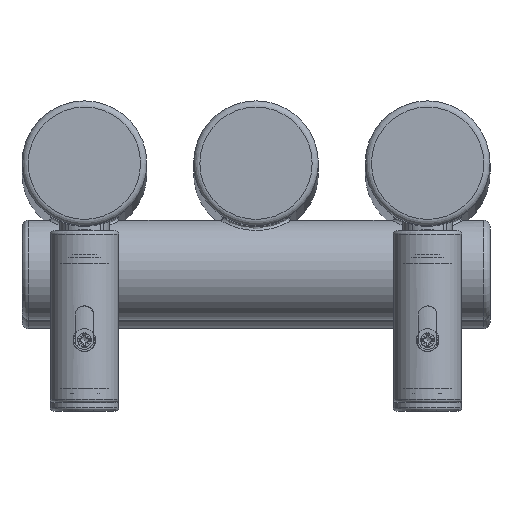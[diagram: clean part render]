
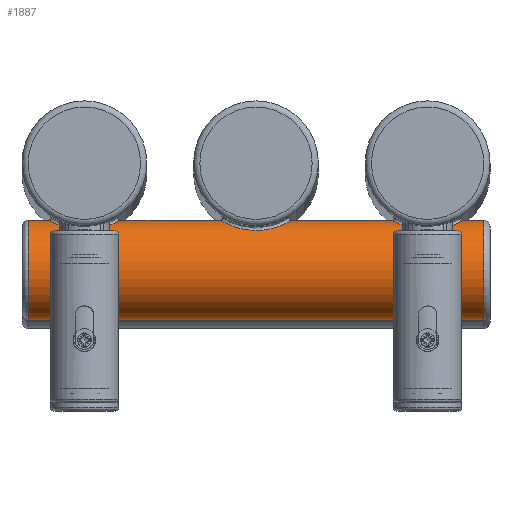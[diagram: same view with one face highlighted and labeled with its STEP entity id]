
A CAD part, top view. The second image highlights one B-rep face of the part: STEP entity #1887.
In plain terms, the highlighted cylindrical face has radius 16 mm (diameter 32 mm), a full revolution.
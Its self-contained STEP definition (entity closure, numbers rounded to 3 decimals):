
#163=FACE_BOUND('',#495,.T.);
#164=FACE_BOUND('',#496,.T.);
#165=FACE_BOUND('',#497,.T.);
#184=LINE('',#3926,#256);
#256=VECTOR('',#2366,16.);
#328=CYLINDRICAL_SURFACE('',#2066,16.);
#361=FACE_OUTER_BOUND('',#494,.T.);
#494=EDGE_LOOP('',(#1345,#1346,#1347,#1348));
#495=EDGE_LOOP('',(#1349));
#496=EDGE_LOOP('',(#1350));
#497=EDGE_LOOP('',(#1351));
#636=B_SPLINE_CURVE_WITH_KNOTS('',3,(#3904,#3905,#3906,#3907,#3908,#3909,
#3910,#3911,#3912,#3913,#3914,#3915,#3916,#3917,#3918,#3919,#3920,#3921),
 .UNSPECIFIED.,.T.,.F.,(4,1,1,1,1,1,1,1,1,1,1,1,1,1,1,4),(0.,0.367,
0.733,1.1,1.466,1.955,2.199,
2.444,2.933,3.177,3.421,3.666,
3.91,4.399,4.765,5.132),
 .UNSPECIFIED.);
#637=B_SPLINE_CURVE_WITH_KNOTS('',3,(#3929,#3930,#3931,#3932,#3933,#3934,
#3935,#3936,#3937,#3938,#3939,#3940,#3941,#3942,#3943,#3944,#3945,#3946),
 .UNSPECIFIED.,.T.,.F.,(4,1,1,1,1,1,1,1,1,1,1,1,1,1,1,4),(0.,0.367,
0.733,1.1,1.466,1.955,2.199,
2.444,2.933,3.177,3.421,3.666,
3.91,4.399,4.765,5.132),
 .UNSPECIFIED.);
#638=B_SPLINE_CURVE_WITH_KNOTS('',3,(#3948,#3949,#3950,#3951,#3952,#3953,
#3954,#3955,#3956,#3957,#3958,#3959,#3960,#3961,#3962,#3963,#3964,#3965,
#3966,#3967,#3968,#3969,#3970,#3971,#3972),.UNSPECIFIED.,.T.,.F.,(4,1,1,
1,1,1,1,1,1,1,1,1,1,1,1,1,1,1,1,1,1,1,4),(0.,0.367,0.733,
1.1,1.283,1.466,1.711,1.955,
2.077,2.199,2.444,2.933,3.177,
3.421,3.666,3.788,3.91,4.154,
4.277,4.399,4.582,4.765,5.132),
 .UNSPECIFIED.);
#687=CIRCLE('',#2067,16.);
#688=CIRCLE('',#2068,16.);
#837=VERTEX_POINT('',#3902);
#838=VERTEX_POINT('',#3923);
#839=VERTEX_POINT('',#3925);
#840=VERTEX_POINT('',#3928);
#841=VERTEX_POINT('',#3947);
#1041=EDGE_CURVE('',#837,#837,#636,.T.);
#1042=EDGE_CURVE('',#838,#838,#687,.T.);
#1043=EDGE_CURVE('',#838,#839,#184,.T.);
#1044=EDGE_CURVE('',#839,#839,#688,.T.);
#1045=EDGE_CURVE('',#840,#840,#637,.T.);
#1046=EDGE_CURVE('',#841,#841,#638,.T.);
#1345=ORIENTED_EDGE('',*,*,#1042,.F.);
#1346=ORIENTED_EDGE('',*,*,#1043,.T.);
#1347=ORIENTED_EDGE('',*,*,#1044,.F.);
#1348=ORIENTED_EDGE('',*,*,#1043,.F.);
#1349=ORIENTED_EDGE('',*,*,#1045,.F.);
#1350=ORIENTED_EDGE('',*,*,#1046,.F.);
#1351=ORIENTED_EDGE('',*,*,#1041,.F.);
#1887=ADVANCED_FACE('',(#361,#163,#164,#165),#328,.T.);
#2066=AXIS2_PLACEMENT_3D('',#3922,#2362,#2363);
#2067=AXIS2_PLACEMENT_3D('',#3924,#2364,#2365);
#2068=AXIS2_PLACEMENT_3D('',#3927,#2367,#2368);
#2362=DIRECTION('center_axis',(-1.,0.,0.));
#2363=DIRECTION('ref_axis',(0.,0.,1.));
#2364=DIRECTION('center_axis',(-1.,0.,0.));
#2365=DIRECTION('ref_axis',(0.,0.,1.));
#2366=DIRECTION('',(1.,0.,0.));
#2367=DIRECTION('center_axis',(1.,0.,0.));
#2368=DIRECTION('ref_axis',(0.,0.,1.));
#3902=CARTESIAN_POINT('',(-110.,-21.257,1654.676));
#3904=CARTESIAN_POINT('Ctrl Pts',(-110.,-21.257,1654.676));
#3905=CARTESIAN_POINT('Ctrl Pts',(-108.333,-21.257,1654.676));
#3906=CARTESIAN_POINT('Ctrl Pts',(-104.998,-20.862,1654.186));
#3907=CARTESIAN_POINT('Ctrl Pts',(-100.822,-19.32,1651.732));
#3908=CARTESIAN_POINT('Ctrl Pts',(-98.543,-17.947,1647.499));
#3909=CARTESIAN_POINT('Ctrl Pts',(-98.525,-17.943,1641.936));
#3910=CARTESIAN_POINT('Ctrl Pts',(-101.229,-19.554,1637.874));
#3911=CARTESIAN_POINT('Ctrl Pts',(-105.077,-20.767,1635.98));
#3912=CARTESIAN_POINT('Ctrl Pts',(-109.395,-21.458,1635.071));
#3913=CARTESIAN_POINT('Ctrl Pts',(-113.972,-21.079,1635.505));
#3914=CARTESIAN_POINT('Ctrl Pts',(-117.798,-19.859,1637.413));
#3915=CARTESIAN_POINT('Ctrl Pts',(-119.989,-18.831,1639.665));
#3916=CARTESIAN_POINT('Ctrl Pts',(-121.247,-18.084,1642.577));
#3917=CARTESIAN_POINT('Ctrl Pts',(-121.602,-17.836,1646.907));
#3918=CARTESIAN_POINT('Ctrl Pts',(-119.645,-19.134,1651.468));
#3919=CARTESIAN_POINT('Ctrl Pts',(-114.999,-20.872,1654.179));
#3920=CARTESIAN_POINT('Ctrl Pts',(-111.667,-21.257,1654.676));
#3921=CARTESIAN_POINT('Ctrl Pts',(-110.,-21.257,1654.676));
#3922=CARTESIAN_POINT('Origin',(20.,-34.,1645.));
#3923=CARTESIAN_POINT('',(-128.,-34.,1629.));
#3924=CARTESIAN_POINT('Origin',(-128.,-34.,1645.));
#3925=CARTESIAN_POINT('',(18.,-34.,1629.));
#3926=CARTESIAN_POINT('',(20.,-34.,1629.));
#3927=CARTESIAN_POINT('Origin',(18.,-34.,1645.));
#3928=CARTESIAN_POINT('',(-55.,-21.257,1654.676));
#3929=CARTESIAN_POINT('Ctrl Pts',(-55.,-21.257,1654.676));
#3930=CARTESIAN_POINT('Ctrl Pts',(-53.333,-21.257,1654.676));
#3931=CARTESIAN_POINT('Ctrl Pts',(-49.998,-20.862,1654.186));
#3932=CARTESIAN_POINT('Ctrl Pts',(-45.822,-19.32,1651.732));
#3933=CARTESIAN_POINT('Ctrl Pts',(-43.543,-17.947,1647.499));
#3934=CARTESIAN_POINT('Ctrl Pts',(-43.525,-17.943,1641.936));
#3935=CARTESIAN_POINT('Ctrl Pts',(-46.229,-19.554,1637.874));
#3936=CARTESIAN_POINT('Ctrl Pts',(-50.077,-20.767,1635.98));
#3937=CARTESIAN_POINT('Ctrl Pts',(-54.395,-21.458,1635.071));
#3938=CARTESIAN_POINT('Ctrl Pts',(-58.972,-21.079,1635.505));
#3939=CARTESIAN_POINT('Ctrl Pts',(-62.798,-19.859,1637.413));
#3940=CARTESIAN_POINT('Ctrl Pts',(-64.989,-18.831,1639.665));
#3941=CARTESIAN_POINT('Ctrl Pts',(-66.247,-18.084,1642.577));
#3942=CARTESIAN_POINT('Ctrl Pts',(-66.602,-17.836,1646.907));
#3943=CARTESIAN_POINT('Ctrl Pts',(-64.645,-19.134,1651.468));
#3944=CARTESIAN_POINT('Ctrl Pts',(-59.999,-20.872,1654.179));
#3945=CARTESIAN_POINT('Ctrl Pts',(-56.667,-21.257,1654.676));
#3946=CARTESIAN_POINT('Ctrl Pts',(-55.,-21.257,1654.676));
#3947=CARTESIAN_POINT('',(0.,-21.257,1654.676));
#3948=CARTESIAN_POINT('Ctrl Pts',(0.,-21.257,
1654.676));
#3949=CARTESIAN_POINT('Ctrl Pts',(1.667,-21.257,1654.676));
#3950=CARTESIAN_POINT('Ctrl Pts',(5.005,-20.862,1654.184));
#3951=CARTESIAN_POINT('Ctrl Pts',(9.172,-19.323,1651.732));
#3952=CARTESIAN_POINT('Ctrl Pts',(11.085,-18.177,1648.197));
#3953=CARTESIAN_POINT('Ctrl Pts',(11.461,-17.94,1644.999));
#3954=CARTESIAN_POINT('Ctrl Pts',(11.146,-18.139,1642.337));
#3955=CARTESIAN_POINT('Ctrl Pts',(9.987,-18.832,1639.662));
#3956=CARTESIAN_POINT('Ctrl Pts',(8.163,-19.688,1637.79));
#3957=CARTESIAN_POINT('Ctrl Pts',(6.363,-20.315,1636.696));
#3958=CARTESIAN_POINT('Ctrl Pts',(4.387,-20.85,1635.862));
#3959=CARTESIAN_POINT('Ctrl Pts',(0.602,-21.46,1635.076));
#3960=CARTESIAN_POINT('Ctrl Pts',(-3.97,-21.079,1635.503));
#3961=CARTESIAN_POINT('Ctrl Pts',(-7.798,-19.86,1637.413));
#3962=CARTESIAN_POINT('Ctrl Pts',(-9.986,-18.833,1639.664));
#3963=CARTESIAN_POINT('Ctrl Pts',(-11.04,-18.204,1642.095));
#3964=CARTESIAN_POINT('Ctrl Pts',(-11.377,-17.994,1644.199));
#3965=CARTESIAN_POINT('Ctrl Pts',(-11.377,-17.992,1646.337));
#3966=CARTESIAN_POINT('Ctrl Pts',(-10.869,-18.315,1648.422));
#3967=CARTESIAN_POINT('Ctrl Pts',(-9.87,-18.866,1650.253));
#3968=CARTESIAN_POINT('Ctrl Pts',(-8.73,-19.426,1651.665));
#3969=CARTESIAN_POINT('Ctrl Pts',(-7.088,-20.096,1652.962));
#3970=CARTESIAN_POINT('Ctrl Pts',(-4.172,-20.954,1654.303));
#3971=CARTESIAN_POINT('Ctrl Pts',(-1.667,-21.257,1654.676));
#3972=CARTESIAN_POINT('Ctrl Pts',(0.,-21.257,
1654.676));
